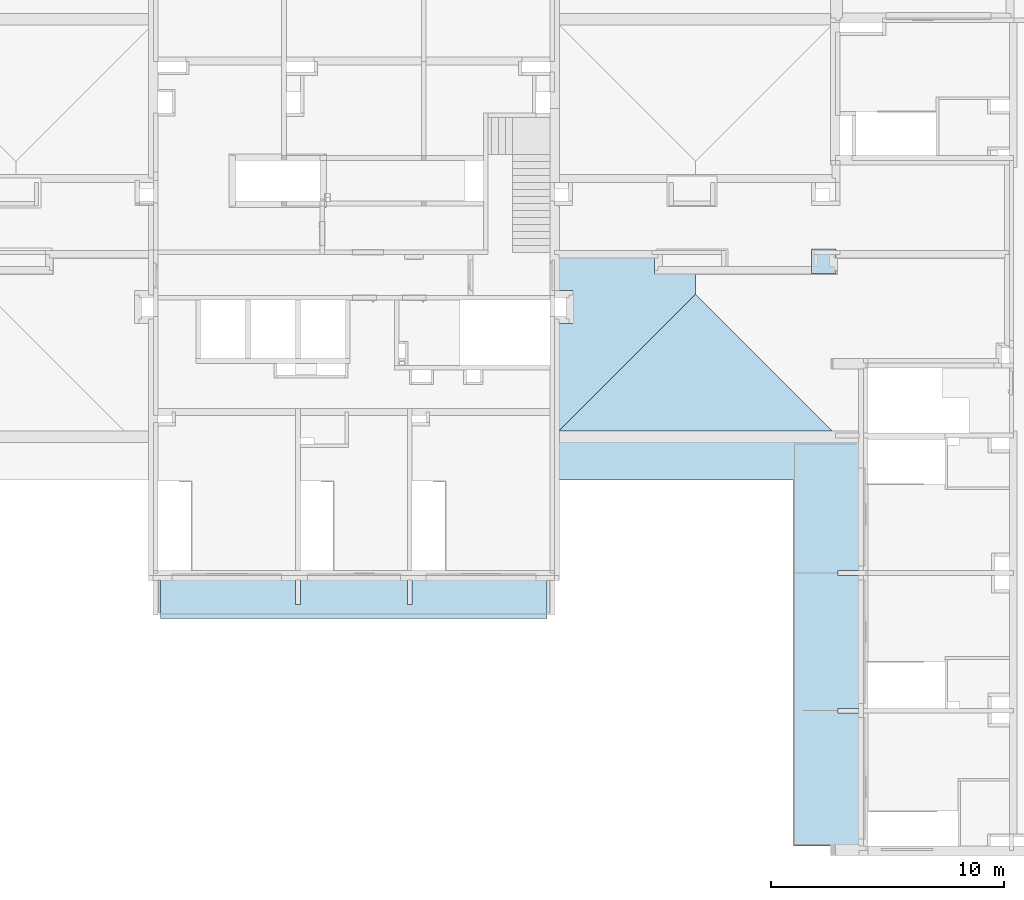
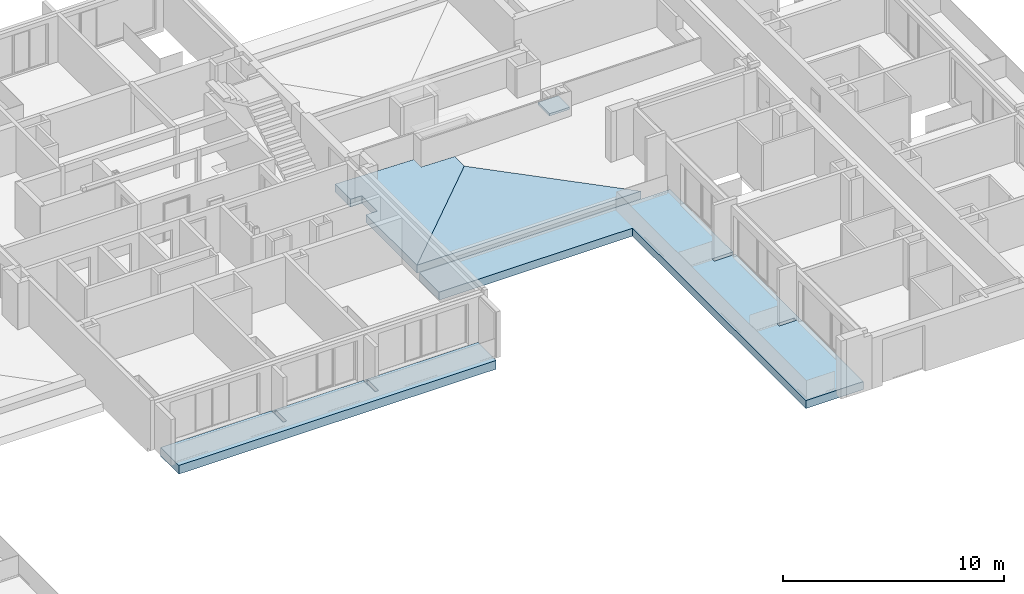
# One storey, part 4 of 30: 5 slabs.
"""IFC2X3 building model written with IfcOpenShell, lengths in millimetres."""

from ifc_helpers import new_model, entity, si_unit, converted_unit, derived_unit, money_unit, direction, frame, origin_with_axes, place, context, subcontext, project, spatial, faceted_brep, material, material_list, type_object, element, save


model = new_model("IFC2X3")

# Units and contexts
model_context = context("Model", 3, precision=0.01, world=origin_with_axes(), true_north=direction((0.34421633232, 0.938890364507)))
body_context = subcontext(model_context, "Body", "Model", "MODEL_VIEW")
ifc_project = project(units=[si_unit("LENGTHUNIT", "METRE", prefix="MILLI"), si_unit("AREAUNIT", "SQUARE_METRE"), si_unit("VOLUMEUNIT", "CUBIC_METRE"), converted_unit("PLANEANGLEUNIT", "DEGREE", entity("IfcPlaneAngleMeasure", 0.0174532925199), si_unit("PLANEANGLEUNIT", "RADIAN"), dimensions=[0, 0, 0, 0, 0, 0, 0]), si_unit("SOLIDANGLEUNIT", "STERADIAN"), money_unit("USD"), converted_unit("TIMEUNIT", "Year", entity("IfcTimeMeasure", 31556926.0), si_unit("TIMEUNIT", "SECOND"), dimensions=[0, 0, 1, 0, 0, 0, 0]), si_unit("MASSUNIT", "GRAM", prefix="KILO"), si_unit("THERMODYNAMICTEMPERATUREUNIT", "DEGREE_CELSIUS"), si_unit("LUMINOUSINTENSITYUNIT", "LUMEN"), si_unit("ENERGYUNIT", "JOULE", prefix="MEGA"), derived_unit("THERMALCONDUCTANCEUNIT", [(si_unit("POWERUNIT", "WATT"), 1), (si_unit("LENGTHUNIT", "METRE"), -1), (si_unit("THERMODYNAMICTEMPERATUREUNIT", "KELVIN"), -1)]), derived_unit("SPECIFICHEATCAPACITYUNIT", [(si_unit("ENERGYUNIT", "JOULE"), 1), (si_unit("MASSUNIT", "GRAM", prefix="KILO"), -1), (si_unit("THERMODYNAMICTEMPERATUREUNIT", "KELVIN"), -1)]), derived_unit("MASSDENSITYUNIT", [(si_unit("MASSUNIT", "GRAM", prefix="KILO"), 1), (si_unit("VOLUMEUNIT", "CUBIC_METRE"), -1)])], contexts=[model_context])

# Site, building, storey
site_placement = place(None, origin_with_axes())
site = spatial("IfcSite", under=ifc_project, at=site_placement, Name="USTRONIE MORSKIE", CompositionType="ELEMENT")
building_placement = place(site_placement, origin_with_axes())
building = spatial("IfcBuilding", under=site, at=building_placement, Name="Budynek", CompositionType="ELEMENT")
storey_placement = place(building_placement, frame((0.0, 0.0, 16000.0), z_axis=(0.0, 0.0, 1.0), x_axis=(1.0, 0.0, 0.0)))
storey = spatial("IfcBuildingStorey", under=building, at=storey_placement, Name="ANTRESOLA - KOND. TECHNICZNA", CompositionType="ELEMENT", Elevation=16000.0)

# Slabs
ifc_material_1 = material(Name="Płytki okładzinowe")
ifc_material_2 = material(Name="Beton")
ifc_material_3 = material(Name="Płyty styropianowe twarde")
ifc_material_4 = material(Name="Membrana przeciwwilgociowa")
ifc_material_5 = material(Name="Beton konstrukcyjny B25")
ifc_material_6 = material(Name="Pustka powietrzna")
ifc_material_7 = material(Name="Laminat")
ifc_material_list_1 = material_list([ifc_material_1, ifc_material_2, ifc_material_3, ifc_material_4, ifc_material_5, ifc_material_6, ifc_material_7])
slab_type_1 = type_object("IfcSlabType", Name="Balkony na HALFENACH FAT 480", PredefinedType="FLOOR")
slab_1_placement = place(storey_placement, frame((379527.920919, 720701.201276, 79.9999979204), z_axis=(0.0, 0.0, 1.0), x_axis=(1.0, 0.0, 0.0)))
element("IfcSlab", 1, at=slab_1_placement, inside=storey, type_object=slab_type_1, material=ifc_material_list_1, Name="P9", PredefinedType="FLOOR", context=body_context, shape_type="Brep", body=[
    faceted_brep([(0.0, -1650.00205834, -25.0), (0.0, 0.0, -25.0), (16580.0, 0.0807467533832, -25.0), (16580.0, -1650.00205834, -25.0), (10589.9752642, -1050.00224026, -25.0), (10789.9752642, -1050.00224026, -25.0), (10789.9752642, -0.00224025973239, -25.0), (10589.9752642, -0.00224025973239, -25.0), (5790.02514866, -1050.00224026, -25.0), (5990.02514866, -1050.00224026, -25.0), (5990.02514866, -0.00224025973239, -25.0), (5790.02514866, -0.00224025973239, -25.0), (0.0, -1650.00205834, 0.0), (0.0, 0.0, 0.0), (16580.0, 0.0807467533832, 0.0), (16580.0, -1650.00205834, 0.0), (10589.9752642, -1050.00224026, 0.0), (10789.9752642, -1050.00224026, 0.0), (10789.9752642, -0.00224025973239, 0.0), (10589.9752642, -0.00224025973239, 0.0), (5790.02514866, -1050.00224026, 0.0), (5990.02514866, -1050.00224026, 0.0), (5990.02514866, -0.00224025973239, 0.0), (5790.02514866, -0.00224025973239, 0.0)], [[[0, 1, 2, 3], [4, 5, 6, 7], [8, 9, 10, 11]], [[1, 0, 12, 13]], [[2, 1, 13, 14]], [[3, 2, 14, 15]], [[0, 3, 15, 12]], [[16, 17, 5, 4]], [[17, 18, 6, 5]], [[18, 19, 7, 6]], [[19, 16, 4, 7]], [[20, 21, 9, 8]], [[21, 22, 10, 9]], [[22, 23, 11, 10]], [[23, 20, 8, 11]], [[14, 13, 12, 15], [16, 19, 18, 17], [20, 23, 22, 21]]]),
    faceted_brep([(0.0, -1650.00205834, -85.0), (0.0, 0.0, -85.0), (16580.0, 0.0807467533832, -85.0), (16580.0, -1650.00205834, -85.0), (10589.9752642, -1050.00224026, -85.0), (10789.9752642, -1050.00224026, -85.0), (10789.9752642, -0.00224025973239, -85.0), (10589.9752642, -0.00224025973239, -85.0), (5790.02514866, -1050.00224026, -85.0), (5990.02514866, -1050.00224026, -85.0), (5990.02514866, -0.00224025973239, -85.0), (5790.02514866, -0.00224025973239, -85.0), (0.0, -1650.00205834, -25.0), (0.0, 0.0, -25.0), (16580.0, 0.0807467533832, -25.0), (16580.0, -1650.00205834, -25.0), (10589.9752642, -1050.00224026, -25.0), (10789.9752642, -1050.00224026, -25.0), (10789.9752642, -0.00224025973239, -25.0), (10589.9752642, -0.00224025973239, -25.0), (5790.02514866, -1050.00224026, -25.0), (5990.02514866, -1050.00224026, -25.0), (5990.02514866, -0.00224025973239, -25.0), (5790.02514866, -0.00224025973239, -25.0)], [[[0, 1, 2, 3], [4, 5, 6, 7], [8, 9, 10, 11]], [[1, 0, 12, 13]], [[2, 1, 13, 14]], [[3, 2, 14, 15]], [[0, 3, 15, 12]], [[16, 17, 5, 4]], [[17, 18, 6, 5]], [[18, 19, 7, 6]], [[19, 16, 4, 7]], [[20, 21, 9, 8]], [[21, 22, 10, 9]], [[22, 23, 11, 10]], [[23, 20, 8, 11]], [[14, 13, 12, 15], [16, 19, 18, 17], [20, 23, 22, 21]]]),
    faceted_brep([(0.0, -1650.00205834, -235.0), (0.0, 0.0, -235.0), (16580.0, 0.0807467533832, -235.0), (16580.0, -1650.00205834, -235.0), (10589.9752642, -1050.00224026, -235.0), (10789.9752642, -1050.00224026, -235.0), (10789.9752642, -0.00224025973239, -235.0), (10589.9752642, -0.00224025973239, -235.0), (5790.02514866, -1050.00224026, -235.0), (5990.02514866, -1050.00224026, -235.0), (5990.02514866, -0.00224025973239, -235.0), (5790.02514866, -0.00224025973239, -235.0), (0.0, -1650.00205834, -85.0), (0.0, 0.0, -85.0), (16580.0, 0.0807467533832, -85.0), (16580.0, -1650.00205834, -85.0), (10589.9752642, -1050.00224026, -85.0), (10789.9752642, -1050.00224026, -85.0), (10789.9752642, -0.00224025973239, -85.0), (10589.9752642, -0.00224025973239, -85.0), (5790.02514866, -1050.00224026, -85.0), (5990.02514866, -1050.00224026, -85.0), (5990.02514866, -0.00224025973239, -85.0), (5790.02514866, -0.00224025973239, -85.0)], [[[0, 1, 2, 3], [4, 5, 6, 7], [8, 9, 10, 11]], [[1, 0, 12, 13]], [[2, 1, 13, 14]], [[3, 2, 14, 15]], [[0, 3, 15, 12]], [[16, 17, 5, 4]], [[17, 18, 6, 5]], [[18, 19, 7, 6]], [[19, 16, 4, 7]], [[20, 21, 9, 8]], [[21, 22, 10, 9]], [[22, 23, 11, 10]], [[23, 20, 8, 11]], [[14, 13, 12, 15], [16, 19, 18, 17], [20, 23, 22, 21]]]),
    faceted_brep([(0.0, -1650.00205834, -240.0), (0.0, 0.0, -240.0), (16580.0, 0.0807467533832, -240.0), (16580.0, -1650.00205834, -240.0), (10589.9752642, -1050.00224026, -239.99999792), (10789.9752642, -1050.00224026, -239.99999792), (10789.9752642, -0.00224025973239, -239.99999792), (10589.9752642, -0.00224025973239, -239.99999792), (5790.02514866, -1050.00224026, -239.99999792), (5990.02514866, -1050.00224026, -239.99999792), (5990.02514866, -0.00224025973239, -239.99999792), (5790.02514866, -0.00224025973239, -239.99999792), (0.0, -1650.00205834, -235.0), (0.0, 0.0, -235.0), (16580.0, 0.0807467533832, -235.0), (16580.0, -1650.00205834, -235.0), (10589.9752642, -1050.00224026, -235.0), (10789.9752642, -1050.00224026, -235.0), (10789.9752642, -0.00224025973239, -235.0), (10589.9752642, -0.00224025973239, -235.0), (5790.02514866, -1050.00224026, -235.0), (5990.02514866, -1050.00224026, -235.0), (5990.02514866, -0.00224025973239, -235.0), (5790.02514866, -0.00224025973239, -235.0)], [[[0, 1, 2, 3], [4, 5, 6, 7], [8, 9, 10, 11]], [[1, 0, 12, 13]], [[2, 1, 13, 14]], [[3, 2, 14, 15]], [[0, 3, 15, 12]], [[16, 17, 5, 4]], [[17, 18, 6, 5]], [[18, 19, 7, 6]], [[19, 16, 4, 7]], [[20, 21, 9, 8]], [[21, 22, 10, 9]], [[22, 23, 11, 10]], [[23, 20, 8, 11]], [[14, 13, 12, 15], [16, 19, 18, 17], [20, 23, 22, 21]]]),
    faceted_brep([(0.0, -1650.00205834, -440.0), (0.0, -1650.00205834, -240.0), (0.0, 0.0, -240.0), (0.0, 0.0, -440.0), (16580.0, -1650.00205834, -440.0), (16580.0, -1650.00205834, -240.0), (16580.0, 0.0807467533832, -240.0), (16580.0, 0.0807467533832, -440.0)], [[[0, 1, 2, 3]], [[4, 5, 1, 0]], [[2, 1, 5, 6]], [[3, 2, 6, 7]], [[3, 7, 4, 0]], [[7, 6, 5, 4]]]),
    faceted_brep([(16580.0, -10.0022402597, -460.0), (16580.0, -10.0022402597, -440.0), (16580.0, -1650.00205834, -440.0), (16580.0, -1650.00205834, -460.0), (0.0, -10.0022402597, -440.0), (0.0, -10.0022402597, -460.0), (0.0, -1650.00205834, -440.0), (0.0, -1650.00205834, -460.0)], [[[0, 1, 2, 3]], [[4, 1, 0, 5]], [[1, 4, 6, 2]], [[2, 6, 7, 3]], [[5, 0, 3, 7]], [[4, 5, 7, 6]]]),
    faceted_brep([(16580.0, -10.0022402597, -480.0), (16580.0, -10.0022402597, -460.0), (16580.0, -1650.00205834, -460.0), (16580.0, -1650.00205834, -480.0), (0.0, -10.0022402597, -460.0), (0.0, -10.0022402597, -480.0), (0.0, -1650.00205834, -460.0), (0.0, -1650.00205834, -480.0)], [[[0, 1, 2, 3]], [[4, 1, 0, 5]], [[1, 4, 6, 2]], [[3, 2, 6, 7]], [[5, 0, 3, 7]], [[4, 5, 7, 6]]]),
])
ifc_material_8 = material(Name="Okładzina kamienna")
ifc_material_9 = material(Name="Żwir")
ifc_material_10 = material(Name="Membrana hydroizolacyjna")
ifc_material_11 = material(Name="Termoizolacja PIR")
ifc_material_list_2 = material_list([ifc_material_8, ifc_material_9, ifc_material_10, ifc_material_11, ifc_material_11])
slab_type_2 = type_object("IfcSlabType", Name="509-PS STROP DACH BALAST 560", PredefinedType="ROOF")
slab_2_placement = place(storey_placement, frame((402417.920803, 734916.200993, -400.0), z_axis=(0.0, 0.0, 1.0), x_axis=(-5.5051514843e-09, -1.0, 0.0)))
element("IfcSlab", 2, at=slab_2_placement, inside=storey, type_object=slab_type_2, material=ifc_material_list_2, Name="DA3", PredefinedType="ROOF", context=body_context, shape_type="Brep", body=[
    faceted_brep([(415.001744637, -5799.99988125, 676.111986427), (1804.98893846, -5799.9998736, 676.111986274), (1804.98893516, -5200.01223254, 664.112233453), (3205.00191402, -5200.01222483, 664.112233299), (3205.00191732, -5799.99981091, 676.111985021), (7815.00198861, -5799.9995644, 676.11198009), (1965.00193693, 50.0000911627, 559.111986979), (1094.99910824, 50.0000863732, 559.111987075), (1094.99911787, -1699.99987751, 594.111986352), (415.001722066, -1699.99988125, 594.111986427), (415.001744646, -5799.99988126, 656.107986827), (1804.98893844, -5799.99987359, 656.107986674), (1804.98893516, -5200.01223254, 644.108233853), (3205.001914, -5200.01222484, 644.108233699), (3205.00191732, -5799.99981091, 656.10798542), (7815.0019886, -5799.99956439, 656.10798049), (1965.00193692, 50.0000911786, 539.107987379), (1094.99910823, 50.0000863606, 539.107987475), (1094.99911788, -1699.99987751, 574.107986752), (415.00172205, -1699.99988125, 574.107986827)], [[[0, 1, 2, 3, 4, 5, 6, 7, 8, 9]], [[0, 10, 11, 1]], [[1, 11, 12, 2]], [[2, 12, 13, 3]], [[3, 13, 14, 4]], [[4, 14, 15, 5]], [[5, 15, 16, 6]], [[6, 16, 17, 7]], [[7, 17, 18, 8]], [[8, 18, 19, 9]], [[9, 19, 10, 0]], [[10, 19, 18, 17, 16, 15, 14, 13, 12, 11]]]),
    faceted_brep([(415.00172205, -1699.99988125, 574.107986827), (415.001721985, -1699.99988126, 494.091988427), (415.001744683, -5799.99988132, 576.091988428), (415.001744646, -5799.99988126, 656.107986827), (1094.99911788, -1699.99987751, 574.107986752), (1094.99911794, -1699.99987752, 494.091988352), (1094.9991082, 50.0000863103, 459.091989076), (1965.00193688, 50.0000912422, 459.091988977), (7815.00198857, -5799.99956435, 576.091982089), (3205.0019173, -5799.99981091, 576.09198702), (3205.00191392, -5200.01222491, 564.0922353), (1804.98893516, -5200.01223257, 564.092235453), (1804.98893837, -5799.99987354, 576.091988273), (1804.98893844, -5799.99987359, 656.107986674), (1804.98893516, -5200.01223254, 644.108233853), (3205.001914, -5200.01222484, 644.108233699), (3205.00191732, -5799.99981091, 656.10798542), (7815.0019886, -5799.99956439, 656.10798049), (1965.00193692, 50.0000911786, 539.107987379), (1094.99910823, 50.0000863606, 539.107987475)], [[[0, 1, 2, 3]], [[4, 5, 1, 0]], [[2, 1, 5, 6, 7, 8, 9, 10, 11, 12]], [[3, 2, 12, 13]], [[3, 13, 14, 15, 16, 17, 18, 19, 4, 0]], [[19, 6, 5, 4]], [[18, 7, 6, 19]], [[17, 8, 7, 18]], [[16, 9, 8, 17]], [[15, 10, 9, 16]], [[14, 11, 10, 15]], [[13, 12, 11, 14]]]),
    faceted_brep([(415.001721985, -1699.99988126, 494.091988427), (415.001721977, -1699.99988127, 484.089988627), (415.001744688, -5799.99988133, 566.089988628), (415.001744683, -5799.99988132, 576.091988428), (1094.99911794, -1699.99987752, 494.091988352), (1094.99911795, -1699.99987753, 484.089988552), (1094.99910819, 50.000086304, 449.089989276), (1965.00193687, 50.0000912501, 449.089989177), (7815.00198857, -5799.99956435, 566.089982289), (3205.0019173, -5799.99981091, 566.08998722), (3205.00191392, -5200.01222492, 554.0902355), (1804.98893516, -5200.01223257, 554.090235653), (1804.98893836, -5799.99987353, 566.089988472), (1804.98893837, -5799.99987354, 576.091988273), (1804.98893516, -5200.01223257, 564.092235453), (3205.00191392, -5200.01222491, 564.0922353), (3205.0019173, -5799.99981091, 576.09198702), (7815.00198857, -5799.99956435, 576.091982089), (1965.00193688, 50.0000912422, 459.091988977), (1094.9991082, 50.0000863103, 459.091989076)], [[[0, 1, 2, 3]], [[4, 5, 1, 0]], [[2, 1, 5, 6, 7, 8, 9, 10, 11, 12]], [[3, 2, 12, 13]], [[3, 13, 14, 15, 16, 17, 18, 19, 4, 0]], [[19, 6, 5, 4]], [[18, 7, 6, 19]], [[17, 8, 7, 18]], [[16, 9, 8, 17]], [[15, 10, 9, 16]], [[14, 11, 10, 15]], [[13, 12, 11, 14]]]),
    faceted_brep([(415.001721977, -1699.99988127, 484.089988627), (415.001721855, -1699.99988129, 334.059991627), (415.001744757, -5799.99988143, 416.05999163), (415.001744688, -5799.99988133, 566.089988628), (1094.99911795, -1699.99987753, 484.089988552), (1094.99911805, -1699.99987755, 334.059991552), (1094.99910814, 50.0000862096, 299.059992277), (1965.00193679, 50.0000913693, 299.059992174), (7815.00198851, -5799.99956427, 416.059985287), (3205.00191727, -5799.99981089, 416.059990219), (3205.00191378, -5200.01222504, 404.060238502), (1804.98893516, -5200.01223263, 404.060238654), (1804.98893823, -5799.99987344, 416.05999147), (1804.98893836, -5799.99987353, 566.089988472), (1804.98893516, -5200.01223257, 554.090235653), (3205.00191392, -5200.01222492, 554.0902355), (3205.0019173, -5799.99981091, 566.08998722), (7815.00198857, -5799.99956435, 566.089982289), (1965.00193687, 50.0000912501, 449.089989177), (1094.99910819, 50.000086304, 449.089989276)], [[[0, 1, 2, 3]], [[4, 5, 1, 0]], [[2, 1, 5, 6, 7, 8, 9, 10, 11, 12]], [[3, 2, 12, 13]], [[3, 13, 14, 15, 16, 17, 18, 19, 4, 0]], [[19, 6, 5, 4]], [[18, 7, 6, 19]], [[17, 8, 7, 18]], [[16, 9, 8, 17]], [[15, 10, 9, 16]], [[14, 11, 10, 15]], [[13, 12, 11, 14]]]),
    faceted_brep([(1965.00193676, 50.0000914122, 245.0), (1094.99910812, 50.0000861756, 245.0), (1094.99910814, 50.0000862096, 299.059992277), (1965.00193679, 50.0000913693, 299.059992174), (1094.99911812, -1699.99987757, 245.0), (7815.00198845, -5799.99956419, 245.0), (3205.00191724, -5799.99981088, 245.0), (3205.00191363, -5200.01222517, 245.0), (1804.98893516, -5200.01223268, 245.0), (1804.98893807, -5799.99987334, 245.0), (415.001744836, -5799.99988155, 245.0), (415.001721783, -1699.9998813, 245.0), (1094.99911805, -1699.99987755, 334.059991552), (415.001721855, -1699.99988129, 334.059991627), (415.001744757, -5799.99988143, 416.05999163), (1804.98893823, -5799.99987344, 416.05999147), (1804.98893516, -5200.01223263, 404.060238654), (3205.00191378, -5200.01222504, 404.060238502), (3205.00191727, -5799.99981089, 416.059990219), (7815.00198851, -5799.99956427, 416.059985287)], [[[0, 1, 2, 3]], [[4, 1, 0, 5, 6, 7, 8, 9, 10, 11]], [[1, 4, 12, 2]], [[13, 14, 15, 16, 17, 18, 19, 3, 2, 12]], [[5, 0, 3, 19]], [[6, 5, 19, 18]], [[7, 6, 18, 17]], [[8, 7, 17, 16]], [[9, 8, 16, 15]], [[10, 9, 15, 14]], [[11, 10, 14, 13]], [[4, 11, 13, 12]]]),
])
slab_3_placement = place(storey_placement, frame((400713.040387, 732901.198682, -400.0), z_axis=(0.0, 0.0, 1.0), x_axis=(1.0, -5.50521486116e-09, 0.0)))
element("IfcSlab", 3, at=slab_3_placement, inside=storey, type_object=slab_type_2, material=ifc_material_list_2, Name="DA3", PredefinedType="ROOF", context=body_context, shape_type="Brep", body=[
    faceted_brep([(-4095.11918157, -5799.99966843, 676.111982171), (7604.88020573, -5799.99960401, 676.111980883), (1754.88030553, 49.9998830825, 559.111991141), (-4095.11918158, -5799.99966844, 656.107982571), (7604.88020572, -5799.999604, 656.107981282), (1754.88030553, 49.9998830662, 539.107991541)], [[[0, 1, 2]], [[0, 3, 4, 1]], [[1, 4, 5, 2]], [[2, 5, 3, 0]], [[3, 5, 4]]]),
    faceted_brep([(1754.88030553, 49.9998830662, 539.107991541), (1754.88030552, 49.9998830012, 459.091993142), (-4095.11918163, -5799.9996685, 576.091984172), (-4095.11918158, -5799.99966844, 656.107982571), (7604.88020572, -5799.999604, 656.107981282), (7604.88020567, -5799.99960395, 576.091982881)], [[[0, 1, 2, 3]], [[4, 5, 1, 0]], [[2, 1, 5]], [[3, 2, 5, 4]], [[3, 4, 0]]]),
    faceted_brep([(1754.88030552, 49.9998830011, 459.091993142), (1754.88030551, 49.9998829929, 449.089993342), (-4095.11918164, -5799.9996685, 566.089984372), (-4095.11918163, -5799.9996685, 576.091984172), (7604.88020567, -5799.99960395, 576.091982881), (7604.88020567, -5799.99960394, 566.089983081)], [[[0, 1, 2, 3]], [[4, 5, 1, 0]], [[2, 1, 5]], [[3, 2, 5, 4]], [[3, 4, 0]]]),
    faceted_brep([(1754.88030551, 49.999882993, 449.089993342), (1754.88030549, 49.999882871, 299.059996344), (-4095.11918175, -5799.99966861, 416.059987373), (-4095.11918164, -5799.9996685, 566.089984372), (7604.88020567, -5799.99960394, 566.089983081), (7604.88020559, -5799.99960384, 416.059986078)], [[[0, 1, 2, 3]], [[4, 5, 1, 0]], [[2, 1, 5]], [[3, 2, 5, 4]], [[3, 4, 0]]]),
    faceted_brep([(-4095.11918186, -5799.99966873, 245.0), (7604.88020549, -5799.99960372, 245.0), (7604.88020559, -5799.99960384, 416.059986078), (-4095.11918175, -5799.99966861, 416.059987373), (1754.88030548, 49.999882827, 245.0), (1754.88030549, 49.999882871, 299.059996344)], [[[0, 1, 2, 3]], [[4, 1, 0]], [[1, 4, 5, 2]], [[5, 3, 2]], [[4, 0, 3, 5]]]),
])
slab_type_3 = type_object("IfcSlabType", Name="Beton konstrukcyjny B25 120", PredefinedType="FLOOR")
slab_4_placement = place(storey_placement, frame((407437.933278, 734891.199287, 760.000001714), z_axis=(0.0, 0.0, 1.0), x_axis=(1.0, 0.0, 0.0)))
element("IfcSlab", 4, at=slab_4_placement, inside=storey, type_object=slab_type_3, material=ifc_material_5, Name="P3", PredefinedType="FLOOR", context=body_context, shape_type="Brep", body=[
    faceted_brep([(0.0, 0.0, 0.0), (0.0, 0.0, -120.0), (0.0, -1040.0131088, -120.0), (0.0, -1040.0131088, 0.0), (1059.98751245, 0.0, 0.0), (1059.98751245, 0.0, -120.0), (1059.98751245, -1040.0131088, -120.0), (1059.98751245, -1040.0131088, 0.0)], [[[0, 1, 2, 3]], [[4, 5, 1, 0]], [[2, 1, 5, 6]], [[3, 2, 6, 7]], [[4, 0, 3, 7]], [[7, 6, 5, 4]]]),
])
ifc_material_12 = material(Name="Wylewka")
ifc_material_list_3 = material_list([ifc_material_1, ifc_material_12, ifc_material_3, ifc_material_4, ifc_material_5])
slab_type_4 = type_object("IfcSlabType", Name="Tarasy kond.5 440", PredefinedType="FLOOR")
slab_5_placement = place(storey_placement, frame((396567.920919, 726801.199056, 80.0000017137), z_axis=(0.0, 0.0, 1.0), x_axis=(1.0, 0.0, 0.0)))
element("IfcSlab", 5, at=slab_5_placement, inside=storey, type_object=slab_type_4, material=ifc_material_list_3, Name="P9", PredefinedType="FLOOR", context=body_context, shape_type="Brep", body=[
    faceted_brep([(11999.9636082, -5900.00001964, -25.0), (13100.0002607, -5900.00001964, -25.0), (13100.0002607, -17499.993829, -25.0), (10099.9756886, -17499.993829, -25.0), (10100.0085457, -1800.00055737, -25.0), (0.0, -1800.00055737, -25.0), (0.0, 0.0, -25.0), (13100.0002607, 0.0, -25.0), (13100.0002607, -5700.00001964, -25.0), (11999.9636082, -5700.00001964, -25.0), (11999.9636082, -11800.0000501, -25.0), (12890.0, -11800.0000501, -25.0), (12890.0, -11600.0000501, -25.0), (11999.9636082, -11600.0000501, -25.0), (11999.9636082, -5900.00001964, 0.0), (13100.0002607, -5900.00001964, 0.0), (13100.0002607, -17499.993829, 0.0), (10099.9756886, -17499.993829, 0.0), (10100.0085457, -1800.00055737, 0.0), (0.0, -1800.00055737, 0.0), (0.0, 0.0, 0.0), (13100.0002607, 0.0, 0.0), (13100.0002607, -5700.00001964, 0.0), (11999.9636082, -5700.00001964, 0.0), (11999.9636082, -11800.0000499, 0.0), (12890.0, -11800.0000499, 0.0), (12890.0, -11600.0000499, 0.0), (11999.9636082, -11600.0000499, 0.0)], [[[0, 1, 2, 3, 4, 5, 6, 7, 8, 9], [10, 11, 12, 13]], [[14, 15, 1, 0]], [[1, 15, 16, 2]], [[3, 2, 16, 17]], [[4, 3, 17, 18]], [[5, 4, 18, 19]], [[6, 5, 19, 20]], [[7, 6, 20, 21]], [[22, 8, 7, 21]], [[8, 22, 23, 9]], [[23, 14, 0, 9]], [[24, 25, 11, 10]], [[25, 26, 12, 11]], [[26, 27, 13, 12]], [[27, 24, 10, 13]], [[14, 23, 22, 21, 20, 19, 18, 17, 16, 15], [24, 27, 26, 25]]]),
    faceted_brep([(11999.9636082, -5900.00001964, -85.0), (13100.0002607, -5900.00001964, -85.0), (13100.0002607, -17499.993829, -85.0), (10099.9756886, -17499.993829, -85.0), (10100.0085457, -1800.00055737, -85.0), (0.0, -1800.00055737, -85.0), (0.0, 0.0, -85.0), (13100.0002607, 0.0, -85.0), (13100.0002607, -5700.00001964, -85.0), (11999.9636082, -5700.00001964, -85.0), (11999.9636082, -11800.0000507, -85.0), (12890.0, -11800.0000507, -85.0), (12890.0, -11600.0000507, -85.0), (11999.9636082, -11600.0000507, -85.0), (11999.9636082, -5900.00001964, -25.0), (13100.0002607, -5900.00001964, -25.0), (13100.0002607, -17499.993829, -25.0), (10099.9756886, -17499.993829, -25.0), (10100.0085457, -1800.00055737, -25.0), (0.0, -1800.00055737, -25.0), (0.0, 0.0, -25.0), (13100.0002607, 0.0, -25.0), (13100.0002607, -5700.00001964, -25.0), (11999.9636082, -5700.00001964, -25.0), (11999.9636082, -11800.0000501, -25.0), (12890.0, -11800.0000501, -25.0), (12890.0, -11600.0000501, -25.0), (11999.9636082, -11600.0000501, -25.0)], [[[0, 1, 2, 3, 4, 5, 6, 7, 8, 9], [10, 11, 12, 13]], [[14, 15, 1, 0]], [[1, 15, 16, 2]], [[3, 2, 16, 17]], [[4, 3, 17, 18]], [[5, 4, 18, 19]], [[6, 5, 19, 20]], [[7, 6, 20, 21]], [[22, 8, 7, 21]], [[8, 22, 23, 9]], [[23, 14, 0, 9]], [[24, 25, 11, 10]], [[25, 26, 12, 11]], [[26, 27, 13, 12]], [[27, 24, 10, 13]], [[14, 23, 22, 21, 20, 19, 18, 17, 16, 15], [24, 27, 26, 25]]]),
    faceted_brep([(11999.9636082, -5900.00001964, -235.0), (13100.0002607, -5900.00001964, -235.0), (13100.0002607, -17499.993829, -235.0), (10099.9756886, -17499.993829, -235.0), (10100.0085457, -1800.00055737, -235.0), (0.0, -1800.00055737, -235.0), (0.0, 0.0, -235.0), (13100.0002607, 0.0, -235.0), (13100.0002607, -5700.00001964, -235.0), (11999.9636082, -5700.00001964, -235.0), (11999.9636082, -11800.0000522, -235.0), (12890.0, -11800.0000522, -235.0), (12890.0, -11600.0000522, -235.0), (11999.9636082, -11600.0000522, -235.0), (11999.9636082, -5900.00001964, -85.0), (13100.0002607, -5900.00001964, -85.0), (13100.0002607, -17499.993829, -85.0), (10099.9756886, -17499.993829, -85.0), (10100.0085457, -1800.00055737, -85.0), (0.0, -1800.00055737, -85.0), (0.0, 0.0, -85.0), (13100.0002607, 0.0, -85.0), (13100.0002607, -5700.00001964, -85.0), (11999.9636082, -5700.00001964, -85.0), (11999.9636082, -11800.0000507, -85.0), (12890.0, -11800.0000507, -85.0), (12890.0, -11600.0000507, -85.0), (11999.9636082, -11600.0000507, -85.0)], [[[0, 1, 2, 3, 4, 5, 6, 7, 8, 9], [10, 11, 12, 13]], [[14, 15, 1, 0]], [[1, 15, 16, 2]], [[3, 2, 16, 17]], [[4, 3, 17, 18]], [[5, 4, 18, 19]], [[6, 5, 19, 20]], [[7, 6, 20, 21]], [[22, 8, 7, 21]], [[8, 22, 23, 9]], [[23, 14, 0, 9]], [[24, 25, 11, 10]], [[25, 26, 12, 11]], [[26, 27, 13, 12]], [[27, 24, 10, 13]], [[14, 23, 22, 21, 20, 19, 18, 17, 16, 15], [24, 27, 26, 25]]]),
    faceted_brep([(11999.9636082, -5900.00001964, -240.0), (13100.0002607, -5900.00001964, -240.0), (13100.0002607, -17499.993829, -240.0), (10099.9756886, -17499.993829, -240.0), (10100.0085457, -1800.00055737, -240.0), (0.0, -1800.00055737, -240.0), (0.0, 0.0, -240.0), (13100.0002607, 0.0, -240.0), (13100.0002607, -5700.00001964, -240.0), (11999.9636082, -5700.00001964, -240.0), (11999.9636082, -11800.0000522, -240.000001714), (12890.0, -11800.0000522, -240.000001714), (12890.0, -11600.0000522, -240.000001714), (11999.9636082, -11600.0000522, -240.000001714), (11999.9636082, -5900.00001964, -235.0), (13100.0002607, -5900.00001964, -235.0), (13100.0002607, -17499.993829, -235.0), (10099.9756886, -17499.993829, -235.0), (10100.0085457, -1800.00055737, -235.0), (0.0, -1800.00055737, -235.0), (0.0, 0.0, -235.0), (13100.0002607, 0.0, -235.0), (13100.0002607, -5700.00001964, -235.0), (11999.9636082, -5700.00001964, -235.0), (11999.9636082, -11800.0000522, -235.0), (12890.0, -11800.0000522, -235.0), (12890.0, -11600.0000522, -235.0), (11999.9636082, -11600.0000522, -235.0)], [[[0, 1, 2, 3, 4, 5, 6, 7, 8, 9], [10, 11, 12, 13]], [[14, 15, 1, 0]], [[1, 15, 16, 2]], [[3, 2, 16, 17]], [[4, 3, 17, 18]], [[5, 4, 18, 19]], [[6, 5, 19, 20]], [[7, 6, 20, 21]], [[22, 8, 7, 21]], [[8, 22, 23, 9]], [[23, 14, 0, 9]], [[24, 25, 11, 10]], [[25, 26, 12, 11]], [[26, 27, 13, 12]], [[27, 24, 10, 13]], [[14, 23, 22, 21, 20, 19, 18, 17, 16, 15], [24, 27, 26, 25]]]),
    faceted_brep([(0.0, 0.0, -240.0), (0.0, 0.0, -440.0), (0.0, -1800.00055737, -440.0), (0.0, -1800.00055737, -240.0), (13100.0002607, 0.0, -240.0), (13100.0002607, 0.0, -440.0), (13100.0002607, -17499.993829, -440.0), (10099.9756886, -17499.993829, -440.0), (10100.0085457, -1800.00055737, -440.0), (10100.0085457, -1800.00055737, -240.0), (10099.9756886, -17499.993829, -240.0), (13100.0002607, -17499.993829, -240.0)], [[[0, 1, 2, 3]], [[4, 5, 1, 0]], [[2, 1, 5, 6, 7, 8]], [[3, 2, 8, 9]], [[0, 3, 9, 10, 11, 4]], [[11, 6, 5, 4]], [[10, 7, 6, 11]], [[9, 8, 7, 10]]]),
])

save(model, "model.ifc")
